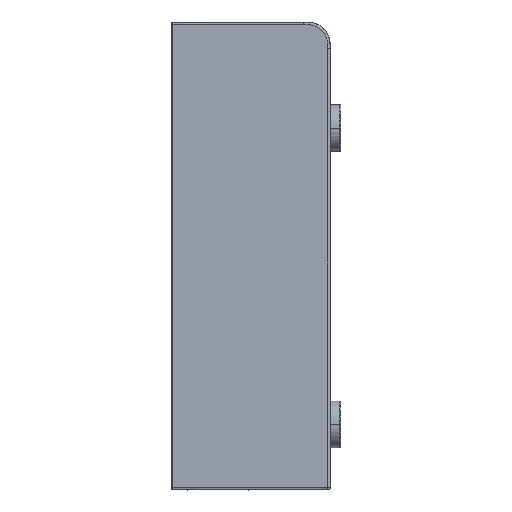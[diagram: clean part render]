
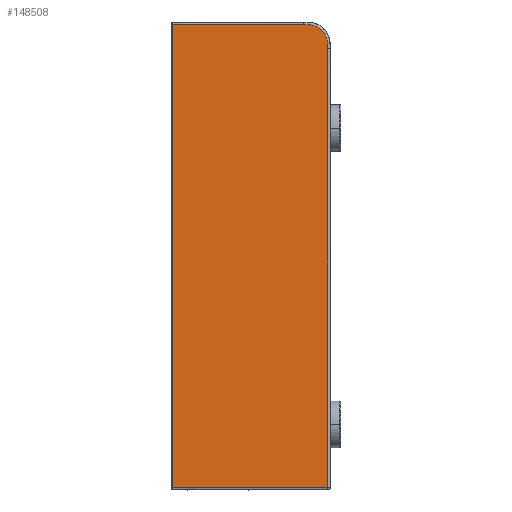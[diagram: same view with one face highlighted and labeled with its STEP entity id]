
A CAD part, left-side view. The second image highlights one B-rep face of the part: STEP entity #148508.
In plain terms, the highlighted planar face has unit normal (-1, 0, 0).
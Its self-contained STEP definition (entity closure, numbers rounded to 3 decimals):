
#106179=CARTESIAN_POINT('',(-74.998,39.73,
3.5));
#106199=DIRECTION('',(0.,1.,0.));
#106200=VECTOR('',#106199,42.2);
#106201=CARTESIAN_POINT('',(-74.999,-2.47,
3.5));
#106202=LINE('',#106201,#106200);
#117107=DIRECTION('',(0.,0.,-1.));
#117108=VECTOR('',#117107,148.4);
#117109=CARTESIAN_POINT('',(-74.998,39.73,
3.5));
#117110=LINE('',#117109,#117108);
#117111=CARTESIAN_POINT('',(-74.998,39.73,
-144.9));
#117118=CARTESIAN_POINT('',(-74.999,-2.47,
3.5));
#117119=CARTESIAN_POINT('',(-74.999,-2.562,
3.5));
#117120=CARTESIAN_POINT('',(-75.001,-2.755,
3.5));
#117121=CARTESIAN_POINT('',(-75.,-3.056,
3.498));
#117122=CARTESIAN_POINT('',(-75.,-3.384,
3.492));
#117123=CARTESIAN_POINT('',(-75.,-3.743,
3.478));
#117124=CARTESIAN_POINT('',(-75.,-4.137,
3.451));
#117125=CARTESIAN_POINT('',(-75.,-4.567,
3.403));
#117126=CARTESIAN_POINT('',(-75.,-5.036,
3.324));
#117127=CARTESIAN_POINT('',(-75.,-5.544,
3.204));
#117128=CARTESIAN_POINT('',(-75.,-6.091,
3.028));
#117129=CARTESIAN_POINT('',(-75.,-6.671,
2.778));
#117130=CARTESIAN_POINT('',(-75.,-7.279,
2.436));
#117131=CARTESIAN_POINT('',(-75.,-7.908,
1.975));
#117132=CARTESIAN_POINT('',(-75.,-8.537,
1.37));
#117133=CARTESIAN_POINT('',(-75.,-9.115,
0.616));
#117134=CARTESIAN_POINT('',(-75.,-9.585,
-0.258));
#117135=CARTESIAN_POINT('',(-75.,-9.916,
-1.212));
#117136=CARTESIAN_POINT('',(-75.,-10.104,
-2.216));
#117137=CARTESIAN_POINT('',(-75.001,-10.169,
-3.214));
#117138=CARTESIAN_POINT('',(-74.999,-10.171,
-3.883));
#117139=CARTESIAN_POINT('',(-74.999,-10.17,
-4.2));
#117141=DIRECTION('',(0.,0.,1.));
#117142=VECTOR('',#117141,140.7);
#117143=CARTESIAN_POINT('',(-74.998,-10.17,
-144.9));
#117144=LINE('',#117143,#117142);
#117371=DIRECTION('',(0.,-1.,
0.));
#117372=VECTOR('',#117371,49.9);
#117373=CARTESIAN_POINT('',(-74.998,39.73,
-144.9));
#117374=LINE('',#117373,#117372);
#125514=VERTEX_POINT('',#106179);
#125519=VERTEX_POINT('',#117111);
#125520=CARTESIAN_POINT('',(-74.999,-2.47,
3.5));
#125521=VERTEX_POINT('',#125520);
#125522=VERTEX_POINT('',#117139);
#125523=CARTESIAN_POINT('',(-74.998,-10.17,
-144.9));
#125524=VERTEX_POINT('',#125523);
#148494=CARTESIAN_POINT('',(-75.,-10.97,-145.7));
#148495=DIRECTION('',(-1.,0.,0.));
#148496=DIRECTION('',(0.,0.,1.));
#148497=AXIS2_PLACEMENT_3D('',#148494,#148495,#148496);
#148498=PLANE('',#148497);
#148499=ORIENTED_EDGE('',*,*,#148488,.F.);
#148500=ORIENTED_EDGE('',*,*,#127258,.F.);
#148501=ORIENTED_EDGE('',*,*,#127510,.T.);
#148503=ORIENTED_EDGE('',*,*,#148502,.F.);
#148505=ORIENTED_EDGE('',*,*,#148504,.F.);
#148506=EDGE_LOOP('',(#148499,#148500,#148501,#148503,#148505));
#148507=FACE_OUTER_BOUND('',#148506,.F.);
#117140=B_SPLINE_CURVE_WITH_KNOTS('',3,(#117118,#117119,#117120,#117121,#117122,
#117123,#117124,#117125,#117126,#117127,#117128,#117129,#117130,#117131,#117132,
#117133,#117134,#117135,#117136,#117137,#117138,#117139),.UNSPECIFIED.,.F.,.F.,(
4,1,1,1,1,1,1,1,1,1,1,1,1,1,1,1,1,1,1,4),(0.,0.021,
0.044,0.069,0.097,0.128,
0.162,0.2,0.241,0.287,
0.338,0.393,0.455,0.526,
0.604,0.684,0.765,0.846,
0.928,1.),.UNSPECIFIED.);
#127258=EDGE_CURVE('',#125521,#125514,#106202,.T.);
#127510=EDGE_CURVE('',#125521,#125522,#117140,.T.);
#148488=EDGE_CURVE('',#125514,#125519,#117110,.T.);
#148502=EDGE_CURVE('',#125524,#125522,#117144,.T.);
#148504=EDGE_CURVE('',#125519,#125524,#117374,.T.);
#148508=ADVANCED_FACE('',(#148507),#148498,.T.);
